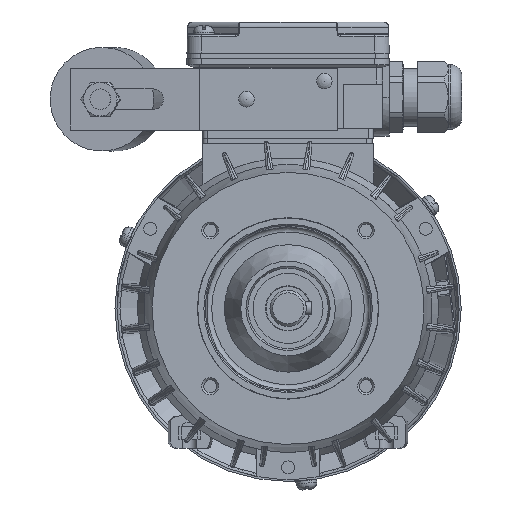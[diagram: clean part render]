
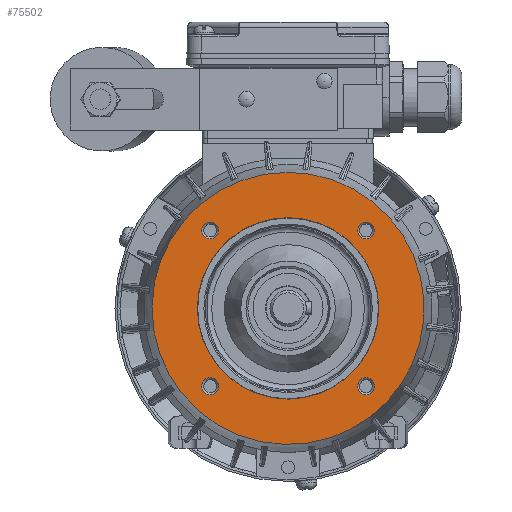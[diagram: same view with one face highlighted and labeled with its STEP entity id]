
A CAD part, front view. The second image highlights one B-rep face of the part: STEP entity #75502.
In plain terms, the highlighted planar face has unit normal (0, -1, 0).
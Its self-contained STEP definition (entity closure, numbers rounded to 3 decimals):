
#3724=CIRCLE('',#79490,35.);
#3725=CIRCLE('',#79492,3.259);
#3726=CIRCLE('',#79494,3.259);
#3727=CIRCLE('',#79496,3.259);
#3728=CIRCLE('',#79498,3.259);
#3910=CIRCLE('',#79835,52.5);
#14983=ORIENTED_EDGE('',*,*,#26624,.T.);
#14984=ORIENTED_EDGE('',*,*,#26623,.T.);
#14985=ORIENTED_EDGE('',*,*,#26622,.T.);
#14986=ORIENTED_EDGE('',*,*,#26621,.T.);
#14987=ORIENTED_EDGE('',*,*,#26620,.F.);
#14988=ORIENTED_EDGE('',*,*,#27200,.T.);
#26620=EDGE_CURVE('',#33431,#33431,#3724,.T.);
#26621=EDGE_CURVE('',#33432,#33432,#3725,.T.);
#26622=EDGE_CURVE('',#33433,#33433,#3726,.T.);
#26623=EDGE_CURVE('',#33434,#33434,#3727,.T.);
#26624=EDGE_CURVE('',#33435,#33435,#3728,.T.);
#27200=EDGE_CURVE('',#33799,#33799,#3910,.T.);
#33431=VERTEX_POINT('',#109805);
#33432=VERTEX_POINT('',#109808);
#33433=VERTEX_POINT('',#109811);
#33434=VERTEX_POINT('',#109814);
#33435=VERTEX_POINT('',#109817);
#33799=VERTEX_POINT('',#113336);
#45505=EDGE_LOOP('',(#14983));
#45506=EDGE_LOOP('',(#14984));
#45507=EDGE_LOOP('',(#14985));
#45508=EDGE_LOOP('',(#14986));
#45509=EDGE_LOOP('',(#14987));
#45510=EDGE_LOOP('',(#14988));
#49072=FACE_BOUND('',#45505,.T.);
#49073=FACE_BOUND('',#45506,.T.);
#49074=FACE_BOUND('',#45507,.T.);
#49075=FACE_BOUND('',#45508,.T.);
#49076=FACE_BOUND('',#45509,.T.);
#49077=FACE_BOUND('',#45510,.T.);
#51396=PLANE('',#79834);
#75502=ADVANCED_FACE('',(#49072,#49073,#49074,#49075,#49076,#49077),#51396,
 .F.);
#79490=AXIS2_PLACEMENT_3D('',#109804,#89362,#89363);
#79492=AXIS2_PLACEMENT_3D('',#109807,#89366,#89367);
#79494=AXIS2_PLACEMENT_3D('',#109810,#89370,#89371);
#79496=AXIS2_PLACEMENT_3D('',#109813,#89374,#89375);
#79498=AXIS2_PLACEMENT_3D('',#109816,#89378,#89379);
#79834=AXIS2_PLACEMENT_3D('',#113334,#90138,#90139);
#79835=AXIS2_PLACEMENT_3D('',#113335,#90140,#90141);
#89362=DIRECTION('',(0.,-1.,0.));
#89363=DIRECTION('',(0.,0.,1.));
#89366=DIRECTION('',(0.,1.,0.));
#89367=DIRECTION('',(1.,0.,0.));
#89370=DIRECTION('',(0.,1.,0.));
#89371=DIRECTION('',(1.,0.,0.));
#89374=DIRECTION('',(0.,1.,0.));
#89375=DIRECTION('',(1.,0.,0.));
#89378=DIRECTION('',(0.,1.,0.));
#89379=DIRECTION('',(1.,0.,0.));
#90138=DIRECTION('',(0.,1.,0.));
#90139=DIRECTION('',(0.,0.,-1.));
#90140=DIRECTION('',(0.,-1.,0.));
#90141=DIRECTION('',(0.,0.,1.));
#109804=CARTESIAN_POINT('',(0.,-41.,0.));
#109805=CARTESIAN_POINT('',(0.,-41.,35.));
#109807=CARTESIAN_POINT('',(30.052,-41.,30.052));
#109808=CARTESIAN_POINT('',(33.311,-41.,30.052));
#109810=CARTESIAN_POINT('',(30.052,-41.,-30.052));
#109811=CARTESIAN_POINT('',(33.311,-41.,-30.052));
#109813=CARTESIAN_POINT('',(-30.052,-41.,-30.052));
#109814=CARTESIAN_POINT('',(-26.794,-41.,-30.052));
#109816=CARTESIAN_POINT('',(-30.052,-41.,30.052));
#109817=CARTESIAN_POINT('',(-26.794,-41.,30.052));
#113334=CARTESIAN_POINT('',(0.,-41.,52.5));
#113335=CARTESIAN_POINT('',(0.,-41.,0.));
#113336=CARTESIAN_POINT('',(0.,-41.,52.5));
